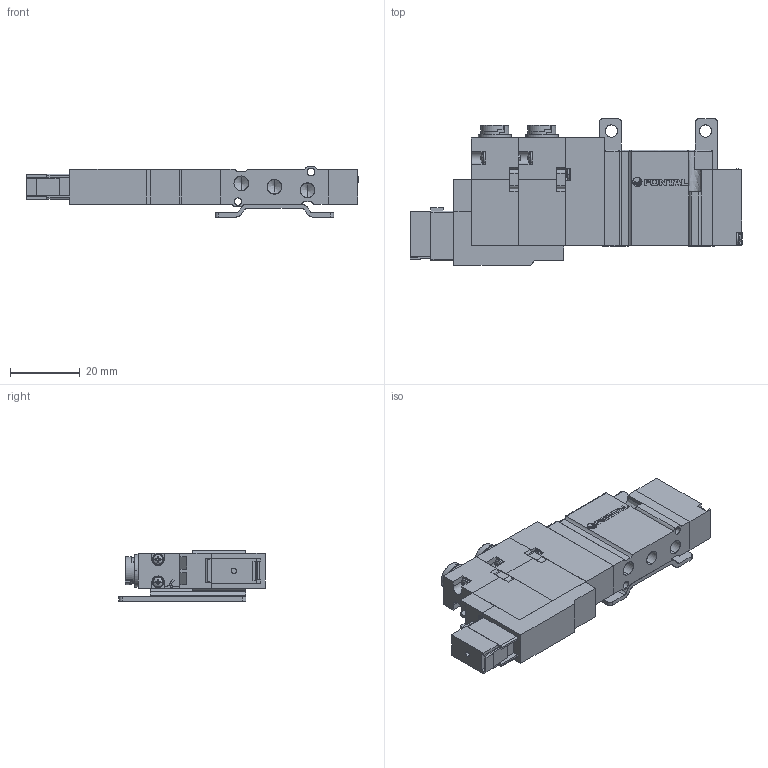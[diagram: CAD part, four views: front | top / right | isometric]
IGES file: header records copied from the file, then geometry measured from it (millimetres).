
Start section: SolidWorks IGES file using analytic representation for surfaces
Global section: file name: D:\Custom\3D繪製\ADEX\A05F\A05FD25#-BS-#-#-E.IGS,1; native system: 5HSolidWorks 2014; preprocessor: SolidWorks 2014; author: Chieh_Lu; date: 150809.153845; units: millimetre
Bounding box: 95.3 x 42 x 14.4 mm (x, y, z)
Surface area: 17925.9 mm2 (no closed solid volume)
Topology: 0 solids, 0 shells, 940 faces, 8008 edges, 7974 vertices
Faces by surface type: bspline 630, revolution 310
